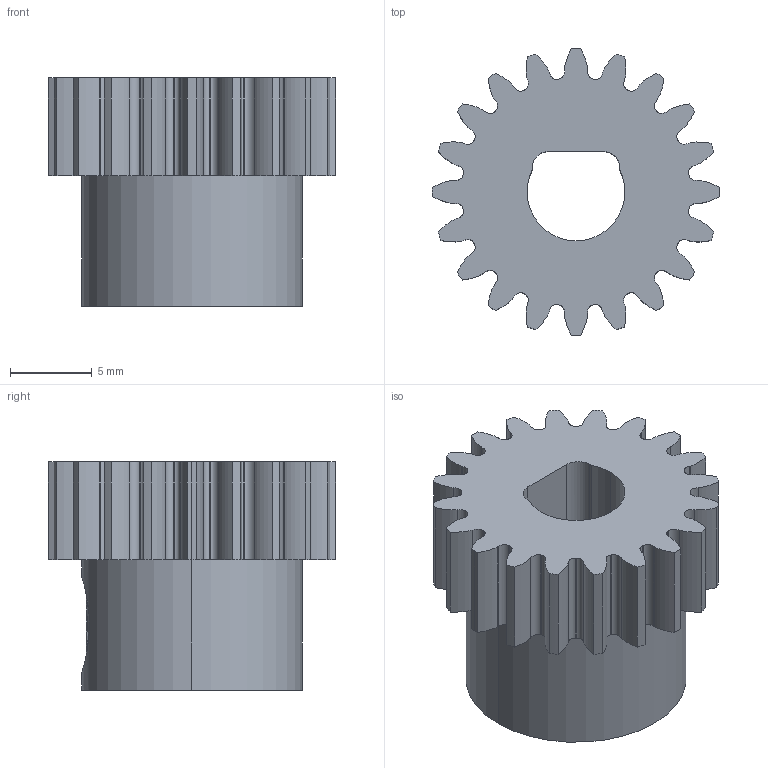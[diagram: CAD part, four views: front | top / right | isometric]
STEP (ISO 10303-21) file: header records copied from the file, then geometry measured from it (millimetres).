
FILE_DESCRIPTION (( 'STEP AP203' ), '1' );
FILE_NAME ('2301-0006-0020 assembly.STEP', '2018-06-28T14:11:32', ( '' ), ( '' ), 'SwSTEP 2.0', 'SolidWorks 2016', '' );
FILE_SCHEMA (( 'CONFIG_CONTROL_DESIGN' ));
Length unit declared in the file: inch
Products named in the file (3): 2806-0005-0004_91390A117; 2301-0006-0020_Gear Blank; 2301-0006-0020 assembly
Assembly tree (2 placements, depth 2):
  2301-0006-0020 assembly
    2301-0006-0020_Gear Blank
    2806-0005-0004_91390A117
Bounding box: 17.6 x 17.6 x 14 mm (x, y, z)
Volume: 1923.7 mm3; surface area: 1709.6 mm2
Topology: 2 solids, 2 shells, 243 faces, 694 edges, 453 vertices
Faces by surface type: bspline 86, cylinder 80, plane 58, cone 19
Entity records: 14544 total; most frequent: CARTESIAN_POINT 8627, ORIENTED_EDGE 1380, DIRECTION 885, EDGE_CURVE 690, VERTEX_POINT 453, VECTOR 311, LINE 311, AXIS2_PLACEMENT_3D 287
